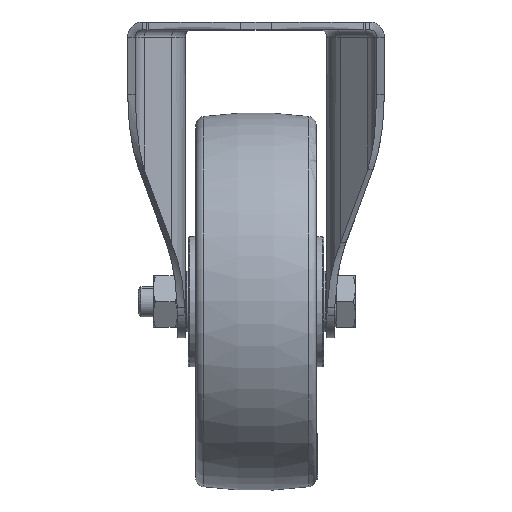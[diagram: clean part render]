
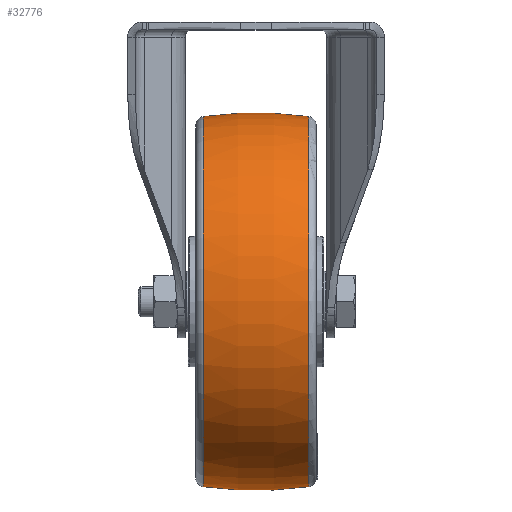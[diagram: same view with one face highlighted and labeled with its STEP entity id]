
A CAD part, top view. The second image highlights one B-rep face of the part: STEP entity #32776.
In plain terms, the highlighted toroidal (fillet/blend) face has major radius 62.5 mm and minor radius 125 mm.
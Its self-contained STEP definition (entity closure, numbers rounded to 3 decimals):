
#1302 = DIRECTION ( 'NONE',  ( 0., 1., 0. ) ) ;
#1370 = DIRECTION ( 'NONE',  ( 0., -1., 0. ) ) ;
#3678 = CARTESIAN_POINT ( 'NONE',  ( 0., -62.5, 0. ) ) ;
#9073 = ORIENTED_EDGE ( 'NONE', *, *, #10470, .T. ) ;
#10470 = EDGE_CURVE ( 'NONE', #32977, #91919, #59752, .T. ) ;
#14541 = DIRECTION ( 'NONE',  ( 0.139, -0.99, 0. ) ) ;
#17305 = CIRCLE ( 'NONE', #36250, 61.28 ) ;
#18328 = CARTESIAN_POINT ( 'NONE',  ( 17.418, 61.28, 0. ) ) ;
#22261 = CARTESIAN_POINT ( 'NONE',  ( 0., 62.5, 0. ) ) ;
#25979 = CIRCLE ( 'NONE', #60650, 125. ) ;
#27991 = EDGE_CURVE ( 'NONE', #38356, #31869, #17305, .T. ) ;
#31869 = VERTEX_POINT ( 'NONE', #18328 ) ;
#32776 = ADVANCED_FACE ( 'NONE', ( #58663 ), #85155, .T. ) ;
#32977 = VERTEX_POINT ( 'NONE', #66978 ) ;
#33709 = CARTESIAN_POINT ( 'NONE',  ( 17.418, 0., 0. ) ) ;
#34047 = DIRECTION ( 'NONE',  ( 0., -1., 0. ) ) ;
#36250 = AXIS2_PLACEMENT_3D ( 'NONE', #33709, #92232, #34047 ) ;
#37770 = DIRECTION ( 'NONE',  ( 1., 0., 0. ) ) ;
#38356 = VERTEX_POINT ( 'NONE', #88570 ) ;
#40773 = DIRECTION ( 'NONE',  ( 0., 0., 1. ) ) ;
#45498 = CARTESIAN_POINT ( 'NONE',  ( -17.418, 0., 0. ) ) ;
#46631 = CIRCLE ( 'NONE', #82422, 125. ) ;
#47414 = CARTESIAN_POINT ( 'NONE',  ( -17.418, 61.28, 0. ) ) ;
#54277 = EDGE_CURVE ( 'NONE', #38356, #32977, #46631, .T. ) ;
#58663 = FACE_OUTER_BOUND ( 'NONE', #72297, .T. ) ;
#59752 = CIRCLE ( 'NONE', #92617, 61.28 ) ;
#60650 = AXIS2_PLACEMENT_3D ( 'NONE', #3678, #40773, #91527 ) ;
#60940 = DIRECTION ( 'NONE',  ( 1., 0., 0. ) ) ;
#64727 = ORIENTED_EDGE ( 'NONE', *, *, #54277, .T. ) ;
#64847 = EDGE_CURVE ( 'NONE', #31869, #91919, #25979, .T. ) ;
#66978 = CARTESIAN_POINT ( 'NONE',  ( -17.418, -61.28, 0. ) ) ;
#67049 = CARTESIAN_POINT ( 'NONE',  ( 0., 0., 0. ) ) ;
#70989 = ORIENTED_EDGE ( 'NONE', *, *, #64847, .F. ) ;
#72297 = EDGE_LOOP ( 'NONE', ( #9073, #70989, #84191, #64727 ) ) ;
#73858 = DIRECTION ( 'NONE',  ( 0., 0., -1. ) ) ;
#82422 = AXIS2_PLACEMENT_3D ( 'NONE', #22261, #73858, #14541 ) ;
#84191 = ORIENTED_EDGE ( 'NONE', *, *, #27991, .F. ) ;
#85155 = TOROIDAL_SURFACE ( 'NONE', #91485, -62.5, 125. ) ;
#88570 = CARTESIAN_POINT ( 'NONE',  ( 17.418, -61.28, 0. ) ) ;
#91485 = AXIS2_PLACEMENT_3D ( 'NONE', #67049, #37770, #1302 ) ;
#91527 = DIRECTION ( 'NONE',  ( 0.139, 0.99, 0. ) ) ;
#91919 = VERTEX_POINT ( 'NONE', #47414 ) ;
#92232 = DIRECTION ( 'NONE',  ( 1., 0., 0. ) ) ;
#92617 = AXIS2_PLACEMENT_3D ( 'NONE', #45498, #60940, #1370 ) ;
